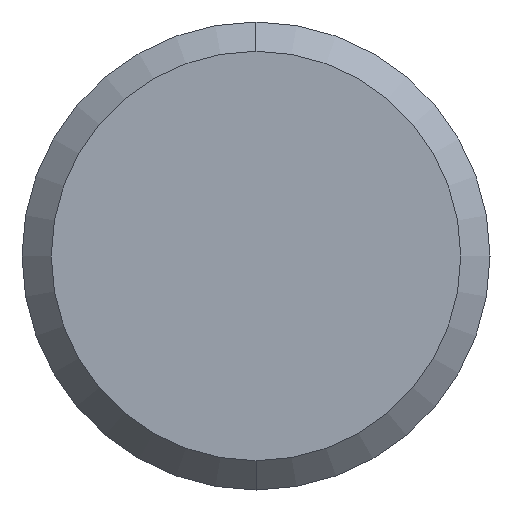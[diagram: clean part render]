
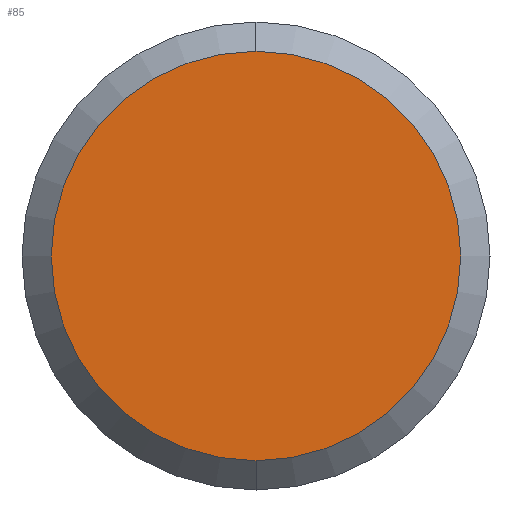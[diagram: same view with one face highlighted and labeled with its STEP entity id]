
A CAD part, front view. The second image highlights one B-rep face of the part: STEP entity #85.
In plain terms, the highlighted planar face has unit normal (0, -1, 0).
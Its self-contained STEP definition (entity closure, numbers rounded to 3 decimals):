
#43 = DIRECTION ( 'NONE',  ( 0., 0., 1. ) ) ;
#56 = CARTESIAN_POINT ( 'NONE',  ( 0., -100., 0. ) ) ;
#62 = PLANE ( 'NONE',  #407 ) ;
#67 = DIRECTION ( 'NONE',  ( 0., -1., 0. ) ) ;
#85 = ADVANCED_FACE ( 'NONE', ( #137 ), #62, .T. ) ;
#103 = ORIENTED_EDGE ( 'NONE', *, *, #439, .T. ) ;
#107 = ORIENTED_EDGE ( 'NONE', *, *, #205, .T. ) ;
#137 = FACE_OUTER_BOUND ( 'NONE', #375, .T. ) ;
#164 = CIRCLE ( 'NONE', #393, 3.5 ) ;
#190 = CIRCLE ( 'NONE', #402, 3.5 ) ;
#205 = EDGE_CURVE ( 'NONE', #220, #221, #164, .T. ) ;
#220 = VERTEX_POINT ( 'NONE', #312 ) ;
#221 = VERTEX_POINT ( 'NONE', #302 ) ;
#256 = DIRECTION ( 'NONE',  ( 0., 0., -1. ) ) ;
#258 = DIRECTION ( 'NONE',  ( 0., -1., 0. ) ) ;
#259 = CARTESIAN_POINT ( 'NONE',  ( 0., -100., 0. ) ) ;
#302 = CARTESIAN_POINT ( 'NONE',  ( 0., -100., 3.5 ) ) ;
#312 = CARTESIAN_POINT ( 'NONE',  ( 0., -100., -3.5 ) ) ;
#329 = CARTESIAN_POINT ( 'NONE',  ( 0., -100., 0. ) ) ;
#330 = DIRECTION ( 'NONE',  ( 0., -1., 0. ) ) ;
#332 = DIRECTION ( 'NONE',  ( 0., 0., -1. ) ) ;
#375 = EDGE_LOOP ( 'NONE', ( #107, #103 ) ) ;
#393 = AXIS2_PLACEMENT_3D ( 'NONE', #329, #330, #332 ) ;
#402 = AXIS2_PLACEMENT_3D ( 'NONE', #259, #258, #256 ) ;
#407 = AXIS2_PLACEMENT_3D ( 'NONE', #56, #67, #43 ) ;
#439 = EDGE_CURVE ( 'NONE', #221, #220, #190, .T. ) ;
